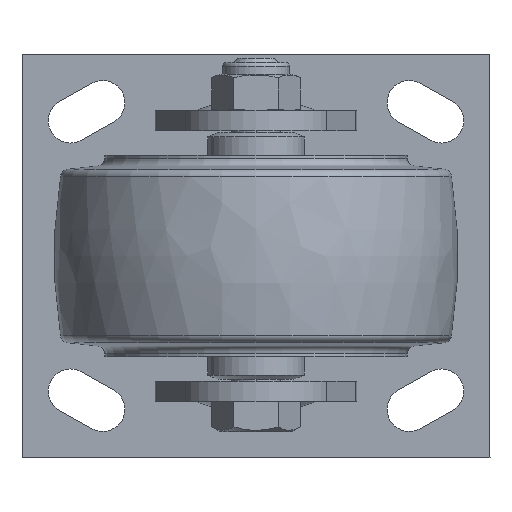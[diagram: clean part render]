
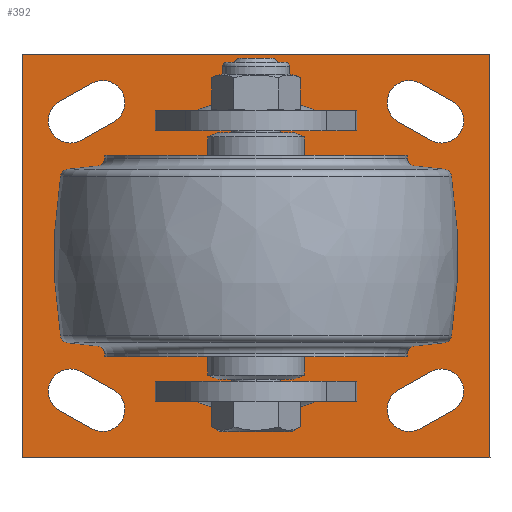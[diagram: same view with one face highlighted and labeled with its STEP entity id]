
A CAD part, front view. The second image highlights one B-rep face of the part: STEP entity #392.
In plain terms, the highlighted planar face has unit normal (0, -1, 0).
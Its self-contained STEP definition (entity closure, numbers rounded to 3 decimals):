
#1=DIRECTION('',(-1.,0.,0.));
#2=VECTOR('',#1,116.);
#3=CARTESIAN_POINT('',(58.,0.,-50.));
#4=LINE('',#3,#2);
#5=DIRECTION('',(0.,0.,1.));
#6=VECTOR('',#5,100.);
#7=CARTESIAN_POINT('',(-58.,0.,-50.));
#8=LINE('',#7,#6);
#9=DIRECTION('',(1.,0.,0.));
#10=VECTOR('',#9,116.);
#11=CARTESIAN_POINT('',(-58.,0.,50.));
#12=LINE('',#11,#10);
#13=DIRECTION('',(0.,0.,-1.));
#14=VECTOR('',#13,100.);
#15=CARTESIAN_POINT('',(58.,0.,50.));
#16=LINE('',#15,#14);
#17=DIRECTION('',(0.872,0.,-0.49));
#18=VECTOR('',#17,9.179);
#19=CARTESIAN_POINT('',(-48.696,0.,-38.294));
#20=LINE('',#19,#18);
#21=CARTESIAN_POINT('',(-38.,0.,-38.));
#22=DIRECTION('',(0.,-1.,0.));
#23=DIRECTION('',(-0.49,0.,-0.872));
#24=AXIS2_PLACEMENT_3D('',#21,#22,#23);
#26=DIRECTION('',(-0.872,0.,0.49));
#27=VECTOR('',#26,9.179);
#28=CARTESIAN_POINT('',(-35.304,0.,-33.206));
#29=LINE('',#28,#27);
#30=CARTESIAN_POINT('',(-46.,0.,-33.5));
#31=DIRECTION('',(0.,-1.,0.));
#32=DIRECTION('',(0.49,0.,0.872));
#33=AXIS2_PLACEMENT_3D('',#30,#31,#32);
#35=DIRECTION('',(-0.872,0.,-0.49));
#36=VECTOR('',#35,9.179);
#37=CARTESIAN_POINT('',(43.304,0.,-28.706));
#38=LINE('',#37,#36);
#39=CARTESIAN_POINT('',(38.,0.,-38.));
#40=DIRECTION('',(0.,-1.,0.));
#41=DIRECTION('',(-0.49,0.,0.872));
#42=AXIS2_PLACEMENT_3D('',#39,#40,#41);
#44=DIRECTION('',(0.872,0.,0.49));
#45=VECTOR('',#44,9.179);
#46=CARTESIAN_POINT('',(40.696,0.,-42.794));
#47=LINE('',#46,#45);
#48=CARTESIAN_POINT('',(46.,0.,-33.5));
#49=DIRECTION('',(0.,-1.,0.));
#50=DIRECTION('',(0.49,0.,-0.872));
#51=AXIS2_PLACEMENT_3D('',#48,#49,#50);
#53=DIRECTION('',(-0.872,0.,0.49));
#54=VECTOR('',#53,9.179);
#55=CARTESIAN_POINT('',(48.696,0.,38.294));
#56=LINE('',#55,#54);
#57=CARTESIAN_POINT('',(38.,0.,38.));
#58=DIRECTION('',(0.,-1.,0.));
#59=DIRECTION('',(0.49,0.,0.872));
#60=AXIS2_PLACEMENT_3D('',#57,#58,#59);
#62=DIRECTION('',(0.872,0.,-0.49));
#63=VECTOR('',#62,9.179);
#64=CARTESIAN_POINT('',(35.304,0.,33.206));
#65=LINE('',#64,#63);
#66=CARTESIAN_POINT('',(46.,0.,33.5));
#67=DIRECTION('',(0.,-1.,0.));
#68=DIRECTION('',(-0.49,0.,-0.872));
#69=AXIS2_PLACEMENT_3D('',#66,#67,#68);
#71=DIRECTION('',(0.872,0.,0.49));
#72=VECTOR('',#71,9.179);
#73=CARTESIAN_POINT('',(-43.304,0.,28.706));
#74=LINE('',#73,#72);
#75=CARTESIAN_POINT('',(-38.,0.,38.));
#76=DIRECTION('',(0.,-1.,0.));
#77=DIRECTION('',(0.49,0.,-0.872));
#78=AXIS2_PLACEMENT_3D('',#75,#76,#77);
#80=DIRECTION('',(-0.872,0.,-0.49));
#81=VECTOR('',#80,9.179);
#82=CARTESIAN_POINT('',(-40.696,0.,42.794));
#83=LINE('',#82,#81);
#84=CARTESIAN_POINT('',(-46.,0.,33.5));
#85=DIRECTION('',(0.,-1.,0.));
#86=DIRECTION('',(-0.49,0.,0.872));
#87=AXIS2_PLACEMENT_3D('',#84,#85,#86);
#257=CARTESIAN_POINT('',(58.,0.,-50.));
#258=CARTESIAN_POINT('',(-58.,0.,-50.));
#259=VERTEX_POINT('',#257);
#260=VERTEX_POINT('',#258);
#261=CARTESIAN_POINT('',(-58.,0.,50.));
#262=VERTEX_POINT('',#261);
#263=CARTESIAN_POINT('',(58.,0.,50.));
#264=VERTEX_POINT('',#263);
#265=CARTESIAN_POINT('',(-48.696,0.,-38.294));
#266=CARTESIAN_POINT('',(-40.696,0.,-42.794));
#267=VERTEX_POINT('',#265);
#268=VERTEX_POINT('',#266);
#269=CARTESIAN_POINT('',(-35.304,0.,-33.206));
#270=VERTEX_POINT('',#269);
#271=CARTESIAN_POINT('',(-43.304,0.,-28.706));
#272=VERTEX_POINT('',#271);
#273=CARTESIAN_POINT('',(43.304,0.,-28.706));
#274=CARTESIAN_POINT('',(35.304,0.,-33.206));
#275=VERTEX_POINT('',#273);
#276=VERTEX_POINT('',#274);
#277=CARTESIAN_POINT('',(40.696,0.,-42.794));
#278=VERTEX_POINT('',#277);
#279=CARTESIAN_POINT('',(48.696,0.,-38.294));
#280=VERTEX_POINT('',#279);
#281=CARTESIAN_POINT('',(48.696,0.,38.294));
#282=CARTESIAN_POINT('',(40.696,0.,42.794));
#283=VERTEX_POINT('',#281);
#284=VERTEX_POINT('',#282);
#285=CARTESIAN_POINT('',(35.304,0.,33.206));
#286=VERTEX_POINT('',#285);
#287=CARTESIAN_POINT('',(43.304,0.,28.706));
#288=VERTEX_POINT('',#287);
#289=CARTESIAN_POINT('',(-43.304,0.,28.706));
#290=CARTESIAN_POINT('',(-35.304,0.,33.206));
#291=VERTEX_POINT('',#289);
#292=VERTEX_POINT('',#290);
#293=CARTESIAN_POINT('',(-40.696,0.,42.794));
#294=VERTEX_POINT('',#293);
#295=CARTESIAN_POINT('',(-48.696,0.,38.294));
#296=VERTEX_POINT('',#295);
#337=CARTESIAN_POINT('',(0.,0.,0.));
#338=DIRECTION('',(0.,1.,0.));
#339=DIRECTION('',(1.,0.,0.));
#340=AXIS2_PLACEMENT_3D('',#337,#338,#339);
#341=PLANE('',#340);
#343=ORIENTED_EDGE('',*,*,#342,.T.);
#345=ORIENTED_EDGE('',*,*,#344,.T.);
#347=ORIENTED_EDGE('',*,*,#346,.T.);
#349=ORIENTED_EDGE('',*,*,#348,.T.);
#350=EDGE_LOOP('',(#343,#345,#347,#349));
#351=FACE_OUTER_BOUND('',#350,.F.);
#353=ORIENTED_EDGE('',*,*,#352,.T.);
#355=ORIENTED_EDGE('',*,*,#354,.T.);
#357=ORIENTED_EDGE('',*,*,#356,.T.);
#359=ORIENTED_EDGE('',*,*,#358,.T.);
#360=EDGE_LOOP('',(#353,#355,#357,#359));
#361=FACE_BOUND('',#360,.F.);
#363=ORIENTED_EDGE('',*,*,#362,.T.);
#365=ORIENTED_EDGE('',*,*,#364,.T.);
#367=ORIENTED_EDGE('',*,*,#366,.T.);
#369=ORIENTED_EDGE('',*,*,#368,.T.);
#370=EDGE_LOOP('',(#363,#365,#367,#369));
#371=FACE_BOUND('',#370,.F.);
#373=ORIENTED_EDGE('',*,*,#372,.T.);
#375=ORIENTED_EDGE('',*,*,#374,.T.);
#377=ORIENTED_EDGE('',*,*,#376,.T.);
#379=ORIENTED_EDGE('',*,*,#378,.T.);
#380=EDGE_LOOP('',(#373,#375,#377,#379));
#381=FACE_BOUND('',#380,.F.);
#383=ORIENTED_EDGE('',*,*,#382,.T.);
#385=ORIENTED_EDGE('',*,*,#384,.T.);
#387=ORIENTED_EDGE('',*,*,#386,.T.);
#389=ORIENTED_EDGE('',*,*,#388,.T.);
#390=EDGE_LOOP('',(#383,#385,#387,#389));
#391=FACE_BOUND('',#390,.F.);
#25=CIRCLE('',#24,5.5);
#34=CIRCLE('',#33,5.5);
#43=CIRCLE('',#42,5.5);
#52=CIRCLE('',#51,5.5);
#61=CIRCLE('',#60,5.5);
#70=CIRCLE('',#69,5.5);
#79=CIRCLE('',#78,5.5);
#88=CIRCLE('',#87,5.5);
#342=EDGE_CURVE('',#259,#260,#4,.T.);
#344=EDGE_CURVE('',#260,#262,#8,.T.);
#346=EDGE_CURVE('',#262,#264,#12,.T.);
#348=EDGE_CURVE('',#264,#259,#16,.T.);
#352=EDGE_CURVE('',#267,#268,#20,.T.);
#354=EDGE_CURVE('',#268,#270,#25,.T.);
#356=EDGE_CURVE('',#270,#272,#29,.T.);
#358=EDGE_CURVE('',#272,#267,#34,.T.);
#362=EDGE_CURVE('',#275,#276,#38,.T.);
#364=EDGE_CURVE('',#276,#278,#43,.T.);
#366=EDGE_CURVE('',#278,#280,#47,.T.);
#368=EDGE_CURVE('',#280,#275,#52,.T.);
#372=EDGE_CURVE('',#283,#284,#56,.T.);
#374=EDGE_CURVE('',#284,#286,#61,.T.);
#376=EDGE_CURVE('',#286,#288,#65,.T.);
#378=EDGE_CURVE('',#288,#283,#70,.T.);
#382=EDGE_CURVE('',#291,#292,#74,.T.);
#384=EDGE_CURVE('',#292,#294,#79,.T.);
#386=EDGE_CURVE('',#294,#296,#83,.T.);
#388=EDGE_CURVE('',#296,#291,#88,.T.);
#392=ADVANCED_FACE('',(#351,#361,#371,#381,#391),#341,.F.);
